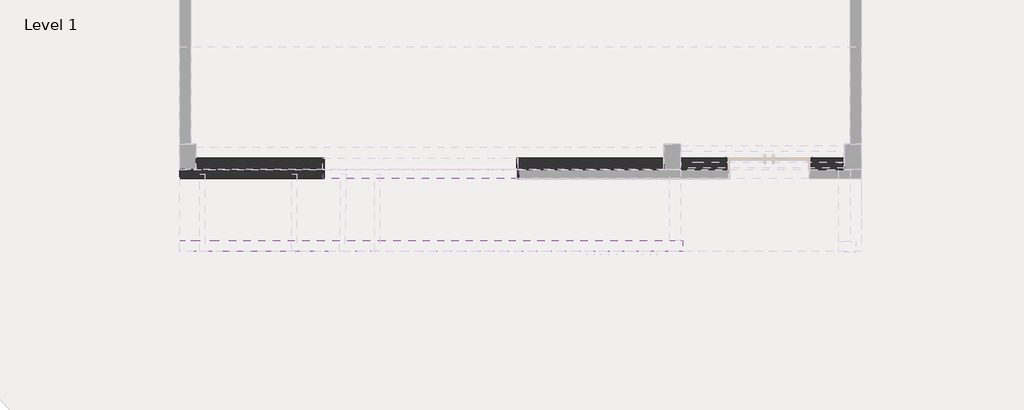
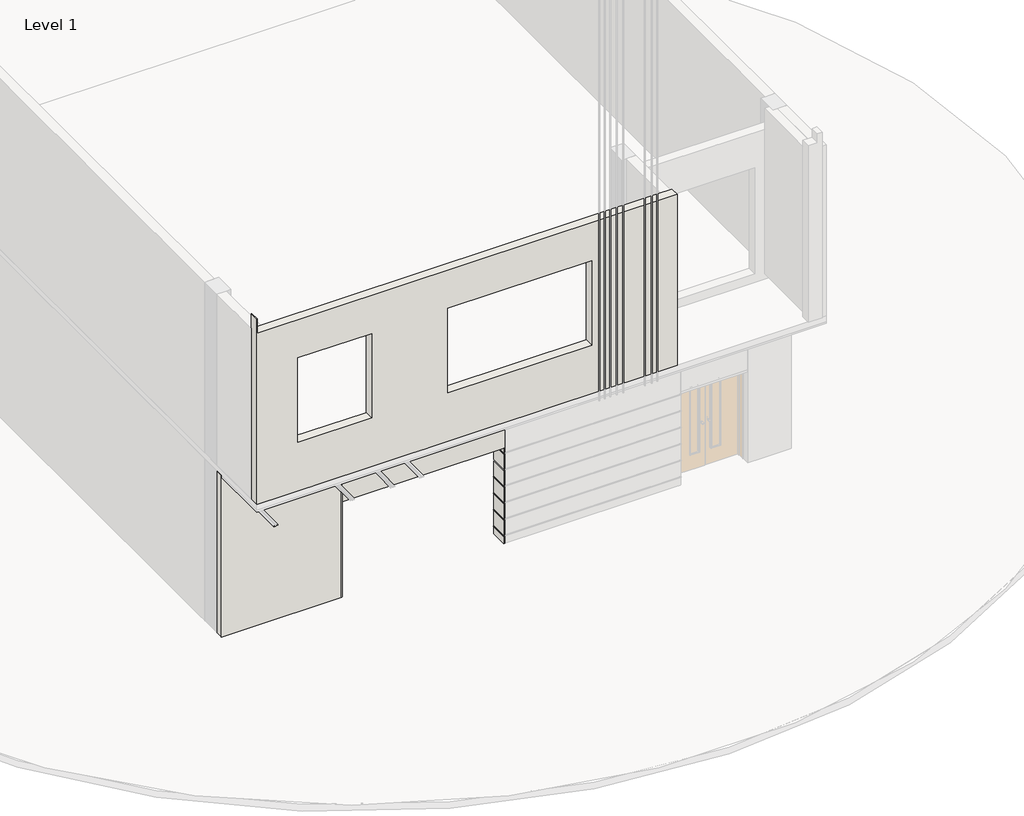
# One storey, part 1 of 3: 6 walls, 5 proxies.
"""IFC4 building model written with IfcOpenShell, lengths in millimetres."""

from ifc_helpers import new_model, si_unit, frame, origin, place, context, project, spatial, polyline, circle_curve, ellipse_curve, faceted_brep, element, save
from ifc_brep_helpers import plane_surface, cylinder_surface, revolved_surface, advanced_brep

model = new_model("IFC4")

# Units and contexts
model_context = context("Model", 3, world=origin())
ifc_project = project(units=[si_unit("LENGTHUNIT", "METRE", prefix="MILLI")], contexts=[model_context])

# Site, building, storey
site = spatial("IfcSite", under=ifc_project)
building = spatial("IfcBuilding", under=site)
storey = spatial("IfcBuildingStorey", under=building, Name="Level 1", Elevation=0.0)

# Proxies
placement = place(None, origin())
element("IfcBuildingElementProxy", 1, Name="Reveal", ObjectType="Reveal", at=placement, inside=storey, context=model_context, shape_type="AdvancedBrep", body=[
    advanced_brep(
    [(1826.4333411, -4025.9647185, 181.0626843), (1842.4333411, -4025.9647185, 181.0626843), (1826.4333411, -4395.9647185, 181.0626843), (1842.4333411, -4379.9647185, 181.0626843)],
    [
        (0, 1, circle_curve(frame((1834.4333411, -4025.9647185, 181.0626843), z_axis=(0.0, 1.0, 0.0), x_axis=(1.0, 0.0, 0.0)), 8.0)),
        (1, 0, circle_curve(frame((1834.4333411, -4025.9647185, 181.0626843), z_axis=(0.0, 1.0, 0.0), x_axis=(1.0, 0.0, 0.0)), 8.0)),
        (2, 3, ellipse_curve(frame((1834.4333411, -4387.9647185, 181.0626843), z_axis=(0.7071067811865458, -0.7071067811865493, 0.0), x_axis=(0.7071067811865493, 0.7071067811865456, 0.0)), 11.3137085, 8.0)),
        (3, 2, ellipse_curve(frame((1834.4333411, -4387.9647185, 181.0626843), z_axis=(0.7071067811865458, -0.7071067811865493, 0.0), x_axis=(0.7071067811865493, 0.7071067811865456, 0.0)), 11.3137085, 8.0)),
        (0, 2),
        (3, 1),
    ],
    [
        plane_surface(frame((1825.4972187, -4025.9647185, 180.0), z_axis=(0.0, 1.0, 0.0), x_axis=(0.0, 0.0, -1.0))),
        plane_surface(frame((1834.4333411, -4387.9647185, -124.8), z_axis=(0.7071067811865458, -0.7071067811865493, 0.0), x_axis=(0.7071067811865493, 0.7071067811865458, 0.0))),
        cylinder_surface(frame((1834.4333411, -4025.9647185, 181.0626843), z_axis=(0.0, 1.0, 0.0), x_axis=(1.0, 0.0, 0.0)), 8.0),
    ],
    [
        (0, [[1, 2]]),
        (1, [[3, 4]]),
        (2, [[-1, 5, -4, 6]]),
        (2, [[-2, -6, -3, -5]]),
    ],
),
])
element("IfcBuildingElementProxy", 2, Name="Reveal", ObjectType="Reveal", at=placement, inside=storey, context=model_context, shape_type="AdvancedBrep", body=[
    advanced_brep(
    [(1826.4333411, -4025.9647185, 2048.5626843), (1842.4333411, -4025.9647185, 2048.5626843), (1826.4333411, -4395.9647185, 2048.5626843), (1842.4333411, -4379.9647185, 2048.5626843)],
    [
        (0, 1, circle_curve(frame((1834.4333411, -4025.9647185, 2048.5626843), z_axis=(0.0, 1.0, 0.0), x_axis=(1.0, 0.0, 0.0)), 8.0)),
        (1, 0, circle_curve(frame((1834.4333411, -4025.9647185, 2048.5626843), z_axis=(0.0, 1.0, 0.0), x_axis=(1.0, 0.0, 0.0)), 8.0)),
        (2, 3, ellipse_curve(frame((1834.4333411, -4387.9647185, 2048.5626843), z_axis=(0.7071067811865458, -0.7071067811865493, 0.0), x_axis=(0.7071067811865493, 0.7071067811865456, 0.0)), 11.3137085, 8.0)),
        (3, 2, ellipse_curve(frame((1834.4333411, -4387.9647185, 2048.5626843), z_axis=(0.7071067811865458, -0.7071067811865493, 0.0), x_axis=(0.7071067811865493, 0.7071067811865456, 0.0)), 11.3137085, 8.0)),
        (0, 2),
        (3, 1),
    ],
    [
        plane_surface(frame((1825.4972187, -4025.9647185, 2047.5), z_axis=(0.0, 1.0, 0.0), x_axis=(0.0, 0.0, -1.0))),
        plane_surface(frame((1834.4333411, -4387.9647185, 1742.7), z_axis=(0.7071067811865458, -0.7071067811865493, 0.0), x_axis=(0.7071067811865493, 0.7071067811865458, 0.0))),
        cylinder_surface(frame((1834.4333411, -4025.9647185, 2048.5626843), z_axis=(0.0, 1.0, 0.0), x_axis=(1.0, 0.0, 0.0)), 8.0),
    ],
    [
        (0, [[1, 2]]),
        (1, [[3, 4]]),
        (2, [[-1, 5, -4, 6]]),
        (2, [[-2, -6, -3, -5]]),
    ],
),
])
element("IfcBuildingElementProxy", 3, Name="Reveal", ObjectType="Reveal", at=placement, inside=storey, context=model_context, shape_type="AdvancedBrep", body=[
    advanced_brep(
    [(1826.4333411, -4025.9647185, 554.5626843), (1842.4333411, -4025.9647185, 554.5626843), (1826.4333411, -4395.9647185, 554.5626843), (1842.4333411, -4379.9647185, 554.5626843)],
    [
        (0, 1, circle_curve(frame((1834.4333411, -4025.9647185, 554.5626843), z_axis=(0.0, 1.0, 0.0), x_axis=(1.0, 0.0, 0.0)), 8.0)),
        (1, 0, circle_curve(frame((1834.4333411, -4025.9647185, 554.5626843), z_axis=(0.0, 1.0, 0.0), x_axis=(1.0, 0.0, 0.0)), 8.0)),
        (2, 3, ellipse_curve(frame((1834.4333411, -4387.9647185, 554.5626843), z_axis=(0.7071067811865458, -0.7071067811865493, 0.0), x_axis=(0.7071067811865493, 0.7071067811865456, 0.0)), 11.3137085, 8.0)),
        (3, 2, ellipse_curve(frame((1834.4333411, -4387.9647185, 554.5626843), z_axis=(0.7071067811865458, -0.7071067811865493, 0.0), x_axis=(0.7071067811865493, 0.7071067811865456, 0.0)), 11.3137085, 8.0)),
        (0, 2),
        (3, 1),
    ],
    [
        plane_surface(frame((1825.4972187, -4025.9647185, 553.5), z_axis=(0.0, 1.0, 0.0), x_axis=(0.0, 0.0, -1.0))),
        plane_surface(frame((1834.4333411, -4387.9647185, 248.7), z_axis=(0.7071067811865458, -0.7071067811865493, 0.0), x_axis=(0.7071067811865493, 0.7071067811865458, 0.0))),
        cylinder_surface(frame((1834.4333411, -4025.9647185, 554.5626843), z_axis=(0.0, 1.0, 0.0), x_axis=(1.0, 0.0, 0.0)), 8.0),
    ],
    [
        (0, [[1, 2]]),
        (1, [[3, 4]]),
        (2, [[-1, 5, -4, 6]]),
        (2, [[-2, -6, -3, -5]]),
    ],
),
])
element("IfcBuildingElementProxy", 4, Name="Reveal", ObjectType="Reveal", at=placement, inside=storey, context=model_context, shape_type="AdvancedBrep", body=[
    advanced_brep(
    [(1826.4333411, -4025.9647185, 928.0626843), (1842.4333411, -4025.9647185, 928.0626843), (1826.4333411, -4395.9647185, 928.0626843), (1842.4333411, -4379.9647185, 928.0626843)],
    [
        (0, 1, circle_curve(frame((1834.4333411, -4025.9647185, 928.0626843), z_axis=(0.0, 1.0, 0.0), x_axis=(1.0, 0.0, 0.0)), 8.0)),
        (1, 0, circle_curve(frame((1834.4333411, -4025.9647185, 928.0626843), z_axis=(0.0, 1.0, 0.0), x_axis=(1.0, 0.0, 0.0)), 8.0)),
        (2, 3, ellipse_curve(frame((1834.4333411, -4387.9647185, 928.0626843), z_axis=(0.7071067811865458, -0.7071067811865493, 0.0), x_axis=(0.7071067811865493, 0.7071067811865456, 0.0)), 11.3137085, 8.0)),
        (3, 2, ellipse_curve(frame((1834.4333411, -4387.9647185, 928.0626843), z_axis=(0.7071067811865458, -0.7071067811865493, 0.0), x_axis=(0.7071067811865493, 0.7071067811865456, 0.0)), 11.3137085, 8.0)),
        (0, 2),
        (3, 1),
    ],
    [
        plane_surface(frame((1825.4972187, -4025.9647185, 927.0), z_axis=(0.0, 1.0, 0.0), x_axis=(0.0, 0.0, -1.0))),
        plane_surface(frame((1834.4333411, -4387.9647185, 622.2), z_axis=(0.7071067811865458, -0.7071067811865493, 0.0), x_axis=(0.7071067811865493, 0.7071067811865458, 0.0))),
        cylinder_surface(frame((1834.4333411, -4025.9647185, 928.0626843), z_axis=(0.0, 1.0, 0.0), x_axis=(1.0, 0.0, 0.0)), 8.0),
    ],
    [
        (0, [[1, 2]]),
        (1, [[3, 4]]),
        (2, [[-1, 5, -4, 6]]),
        (2, [[-2, -6, -3, -5]]),
    ],
),
])
element("IfcBuildingElementProxy", 5, Name="Reveal", ObjectType="Reveal", at=placement, inside=storey, context=model_context, shape_type="AdvancedBrep", body=[
    advanced_brep(
    [(1826.4333411, -4025.9647185, 1301.5626843), (1842.4333411, -4025.9647185, 1301.5626843), (1826.4333411, -4395.9647185, 1301.5626843), (1842.4333411, -4379.9647185, 1301.5626843)],
    [
        (0, 1, circle_curve(frame((1834.4333411, -4025.9647185, 1301.5626843), z_axis=(0.0, 1.0, 0.0), x_axis=(1.0, 0.0, 0.0)), 8.0)),
        (1, 0, circle_curve(frame((1834.4333411, -4025.9647185, 1301.5626843), z_axis=(0.0, 1.0, 0.0), x_axis=(1.0, 0.0, 0.0)), 8.0)),
        (2, 3, ellipse_curve(frame((1834.4333411, -4387.9647185, 1301.5626843), z_axis=(0.7071067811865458, -0.7071067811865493, 0.0), x_axis=(0.7071067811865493, 0.7071067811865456, 0.0)), 11.3137085, 8.0)),
        (3, 2, ellipse_curve(frame((1834.4333411, -4387.9647185, 1301.5626843), z_axis=(0.7071067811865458, -0.7071067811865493, 0.0), x_axis=(0.7071067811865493, 0.7071067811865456, 0.0)), 11.3137085, 8.0)),
        (0, 2),
        (3, 1),
    ],
    [
        plane_surface(frame((1825.4972187, -4025.9647185, 1300.5), z_axis=(0.0, 1.0, 0.0), x_axis=(0.0, 0.0, -1.0))),
        plane_surface(frame((1834.4333411, -4387.9647185, 995.7), z_axis=(0.7071067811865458, -0.7071067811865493, 0.0), x_axis=(0.7071067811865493, 0.7071067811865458, 0.0))),
        cylinder_surface(frame((1834.4333411, -4025.9647185, 1301.5626843), z_axis=(0.0, 1.0, 0.0), x_axis=(1.0, 0.0, 0.0)), 8.0),
    ],
    [
        (0, [[1, 2]]),
        (1, [[3, 4]]),
        (2, [[-1, 5, -4, 6]]),
        (2, [[-2, -6, -3, -5]]),
    ],
),
])

# Walls
element("IfcWall", 6, ObjectType="BZ1_fnsh_EIFS-16cm", at=placement, inside=storey, context=model_context, shape_type="Brep", body=[
    faceted_brep([(-1650.5666589, -4225.9647185, 2483.5103899), (-1650.5666589, -4225.9647185, 0.0), (-4210.5666589, -4225.9647185, 0.0), (-4210.5666589, -4225.9647185, 3670.0), (-1635.5666589, -4225.9647185, 3670.0), (-1635.5666589, -4225.9647185, 3630.0), (-1635.5666589, -4225.9647185, 2483.5103899), (-1650.5666589, -4387.9647185, 0.0), (-1650.5666589, -4387.9647185, 2483.5103899), (-1635.5666589, -4387.9647185, 2483.5103899), (-1635.5666589, -4387.9647185, 3630.0), (-1635.5666589, -4387.9647185, 3670.0), (-4210.5666589, -4387.9647185, 3670.0), (-4210.5666589, -4387.9647185, 0.0)], [[[0, 1, 2, 3, 4, 5, 6]], [[7, 8, 9, 10, 11, 12, 13]], [[0, 8, 7, 1]], [[2, 1, 7, 13]], [[3, 2, 13, 12]], [[4, 3, 12, 11]], [[6, 5, 4, 11, 10, 9]], [[6, 9, 8, 0]]]),
])
element("IfcWall", 7, ObjectType="BZ1_fnsh_EIFS-3CM", at=placement, inside=storey, context=model_context, shape_type="AdvancedBrep", body=[
    advanced_brep(
    [(1834.4333411, -4025.9647185, 0.0), (1834.4333411, -4387.9647185, 0.0), (1834.4333411, -4387.9647185, 173.0626843), (1834.4333411, -4025.9647185, 173.0626843), (1834.4333411, -4387.9647185, 2160.0), (1834.4333411, -4025.9647185, 2160.0), (1834.4333411, -4025.9647185, 2056.5626843), (1834.4333411, -4387.9647185, 2056.5626843), (1834.4333411, -4025.9647185, 189.0626843), (1834.4333411, -4387.9647185, 189.0626843), (1834.4333411, -4387.9647185, 546.5626843), (1834.4333411, -4025.9647185, 546.5626843), (1834.4333411, -4387.9647185, 2040.5626843), (1834.4333411, -4025.9647185, 2040.5626843), (1834.4333411, -4025.9647185, 1683.0626843), (1834.4333411, -4387.9647185, 1683.0626843), (1834.4333411, -4387.9647185, 1667.0626843), (1834.4333411, -4025.9647185, 1667.0626843), (1834.4333411, -4025.9647185, 1309.5626843), (1834.4333411, -4387.9647185, 1309.5626843), (1834.4333411, -4387.9647185, 1293.5626843), (1834.4333411, -4025.9647185, 1293.5626843), (1834.4333411, -4025.9647185, 936.0626843), (1834.4333411, -4387.9647185, 936.0626843), (1834.4333411, -4387.9647185, 920.0626843), (1834.4333411, -4025.9647185, 920.0626843), (1834.4333411, -4025.9647185, 562.5626843), (1834.4333411, -4387.9647185, 562.5626843), (1864.4333411, -4387.9647185, 0.0), (1864.4333411, -4225.9647185, 0.0), (1864.4333411, -4025.9647185, 0.0), (1864.4333411, -4025.9647185, 2160.0), (1864.4333411, -4387.9647185, 2160.0), (1864.4333411, -4387.9647185, 2056.5626843), (1864.4333411, -4379.9647185, 2048.5626843), (1864.4333411, -4387.9647185, 2040.5626843), (1864.4333411, -4387.9647185, 1683.0626843), (1864.4333411, -4379.9647185, 1675.0626843), (1864.4333411, -4387.9647185, 1667.0626843), (1864.4333411, -4387.9647185, 1309.5626843), (1864.4333411, -4379.9647185, 1301.5626843), (1864.4333411, -4387.9647185, 1293.5626843), (1864.4333411, -4387.9647185, 936.0626843), (1864.4333411, -4379.9647185, 928.0626843), (1864.4333411, -4387.9647185, 920.0626843), (1864.4333411, -4387.9647185, 562.5626843), (1864.4333411, -4379.9647185, 554.5626843), (1864.4333411, -4387.9647185, 546.5626843), (1864.4333411, -4387.9647185, 189.0626843), (1864.4333411, -4379.9647185, 181.0626843), (1864.4333411, -4387.9647185, 173.0626843), (1842.4333411, -4025.9647185, 181.0626843), (1842.4333411, -4025.9647185, 554.5626843), (1842.4333411, -4025.9647185, 928.0626843), (1842.4333411, -4025.9647185, 1301.5626843), (1842.4333411, -4025.9647185, 1675.0626843), (1842.4333411, -4025.9647185, 2048.5626843), (1842.4333411, -4379.9647185, 181.0626843), (1842.4333411, -4379.9647185, 2048.5626843), (1842.4333411, -4379.9647185, 1675.0626843), (1842.4333411, -4379.9647185, 1301.5626843), (1842.4333411, -4379.9647185, 928.0626843), (1842.4333411, -4379.9647185, 554.5626843)],
    [
        (0, 1),
        (1, 2),
        (2, 3),
        (3, 0),
        (4, 5),
        (5, 6),
        (6, 7),
        (7, 4),
        (8, 9),
        (9, 10),
        (10, 11),
        (11, 8),
        (12, 13),
        (13, 14),
        (14, 15),
        (15, 12),
        (16, 17),
        (17, 18),
        (18, 19),
        (19, 16),
        (20, 21),
        (21, 22),
        (22, 23),
        (23, 20),
        (24, 25),
        (25, 26),
        (26, 27),
        (27, 24),
        (28, 29),
        (29, 30),
        (30, 31),
        (31, 32),
        (32, 33),
        (33, 34, circle_curve(frame((1864.4333411, -4387.9647185, 2048.5626843), z_axis=(-1.0, 0.0, 0.0), x_axis=(0.0, 1.0, 0.0)), 8.0)),
        (34, 35, circle_curve(frame((1864.4333411, -4387.9647185, 2048.5626843), z_axis=(-1.0, 0.0, 0.0), x_axis=(0.0, 1.0, 0.0)), 8.0)),
        (35, 36),
        (36, 37, circle_curve(frame((1864.4333411, -4387.9647185, 1675.0626843), z_axis=(-1.0, 0.0, 0.0), x_axis=(0.0, 1.0, 0.0)), 8.0)),
        (37, 38, circle_curve(frame((1864.4333411, -4387.9647185, 1675.0626843), z_axis=(-1.0, 0.0, 0.0), x_axis=(0.0, 1.0, 0.0)), 8.0)),
        (38, 39),
        (39, 40, circle_curve(frame((1864.4333411, -4387.9647185, 1301.5626843), z_axis=(-1.0, 0.0, 0.0), x_axis=(0.0, 1.0, 0.0)), 8.0)),
        (40, 41, circle_curve(frame((1864.4333411, -4387.9647185, 1301.5626843), z_axis=(-1.0, 0.0, 0.0), x_axis=(0.0, 1.0, 0.0)), 8.0)),
        (41, 42),
        (42, 43, circle_curve(frame((1864.4333411, -4387.9647185, 928.0626843), z_axis=(-1.0, 0.0, 0.0), x_axis=(0.0, 1.0, 0.0)), 8.0)),
        (43, 44, circle_curve(frame((1864.4333411, -4387.9647185, 928.0626843), z_axis=(-1.0, 0.0, 0.0), x_axis=(0.0, 1.0, 0.0)), 8.0)),
        (44, 45),
        (45, 46, circle_curve(frame((1864.4333411, -4387.9647185, 554.5626843), z_axis=(-1.0, 0.0, 0.0), x_axis=(0.0, 1.0, 0.0)), 8.0)),
        (46, 47, circle_curve(frame((1864.4333411, -4387.9647185, 554.5626843), z_axis=(-1.0, 0.0, 0.0), x_axis=(0.0, 1.0, 0.0)), 8.0)),
        (47, 48),
        (48, 49, circle_curve(frame((1864.4333411, -4387.9647185, 181.0626843), z_axis=(-1.0, 0.0, 0.0), x_axis=(0.0, 1.0, 0.0)), 8.0)),
        (49, 50, circle_curve(frame((1864.4333411, -4387.9647185, 181.0626843), z_axis=(-1.0, 0.0, 0.0), x_axis=(0.0, 1.0, 0.0)), 8.0)),
        (50, 28),
        (0, 30),
        (28, 1),
        (4, 32),
        (31, 5),
        (3, 51, circle_curve(frame((1834.4333411, -4025.9647185, 181.0626843), z_axis=(0.0, -1.0, 0.0), x_axis=(1.0, 0.0, 0.0)), 8.0)),
        (51, 8, circle_curve(frame((1834.4333411, -4025.9647185, 181.0626843), z_axis=(0.0, -1.0, 0.0), x_axis=(1.0, 0.0, 0.0)), 8.0)),
        (11, 52, circle_curve(frame((1834.4333411, -4025.9647185, 554.5626843), z_axis=(0.0, -1.0, 0.0), x_axis=(1.0, 0.0, 0.0)), 8.0)),
        (52, 26, circle_curve(frame((1834.4333411, -4025.9647185, 554.5626843), z_axis=(0.0, -1.0, 0.0), x_axis=(1.0, 0.0, 0.0)), 8.0)),
        (25, 53, circle_curve(frame((1834.4333411, -4025.9647185, 928.0626843), z_axis=(0.0, -1.0, 0.0), x_axis=(1.0, 0.0, 0.0)), 8.0)),
        (53, 22, circle_curve(frame((1834.4333411, -4025.9647185, 928.0626843), z_axis=(0.0, -1.0, 0.0), x_axis=(1.0, 0.0, 0.0)), 8.0)),
        (21, 54, circle_curve(frame((1834.4333411, -4025.9647185, 1301.5626843), z_axis=(0.0, -1.0, 0.0), x_axis=(1.0, 0.0, 0.0)), 8.0)),
        (54, 18, circle_curve(frame((1834.4333411, -4025.9647185, 1301.5626843), z_axis=(0.0, -1.0, 0.0), x_axis=(1.0, 0.0, 0.0)), 8.0)),
        (17, 55, circle_curve(frame((1834.4333411, -4025.9647185, 1675.0626843), z_axis=(0.0, -1.0, 0.0), x_axis=(1.0, 0.0, 0.0)), 8.0)),
        (55, 14, circle_curve(frame((1834.4333411, -4025.9647185, 1675.0626843), z_axis=(0.0, -1.0, 0.0), x_axis=(1.0, 0.0, 0.0)), 8.0)),
        (13, 56, circle_curve(frame((1834.4333411, -4025.9647185, 2048.5626843), z_axis=(0.0, -1.0, 0.0), x_axis=(1.0, 0.0, 0.0)), 8.0)),
        (56, 6, circle_curve(frame((1834.4333411, -4025.9647185, 2048.5626843), z_axis=(0.0, -1.0, 0.0), x_axis=(1.0, 0.0, 0.0)), 8.0)),
        (50, 2),
        (7, 33),
        (9, 48),
        (47, 10),
        (35, 12),
        (15, 36),
        (38, 16),
        (19, 39),
        (41, 20),
        (23, 42),
        (44, 24),
        (27, 45),
        (51, 57),
        (57, 9, ellipse_curve(frame((1834.4333411, -4387.9647185, 181.0626843), z_axis=(0.7071067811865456, -0.7071067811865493, 0.0), x_axis=(0.7071067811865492, 0.7071067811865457, 0.0)), 11.3137085, 8.0)),
        (2, 57, ellipse_curve(frame((1834.4333411, -4387.9647185, 181.0626843), z_axis=(0.7071067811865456, -0.7071067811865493, 0.0), x_axis=(0.7071067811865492, 0.7071067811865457, 0.0)), 11.3137085, 8.0)),
        (57, 49),
        (56, 58),
        (58, 7, ellipse_curve(frame((1834.4333411, -4387.9647185, 2048.5626843), z_axis=(0.7071067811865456, -0.7071067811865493, 0.0), x_axis=(0.7071067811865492, 0.7071067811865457, 0.0)), 11.3137085, 8.0)),
        (12, 58, ellipse_curve(frame((1834.4333411, -4387.9647185, 2048.5626843), z_axis=(0.7071067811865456, -0.7071067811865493, 0.0), x_axis=(0.7071067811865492, 0.7071067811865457, 0.0)), 11.3137085, 8.0)),
        (58, 34),
        (55, 59),
        (59, 15, ellipse_curve(frame((1834.4333411, -4387.9647185, 1675.0626843), z_axis=(0.7071067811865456, -0.7071067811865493, 0.0), x_axis=(0.7071067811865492, 0.7071067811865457, 0.0)), 11.3137085, 8.0)),
        (16, 59, ellipse_curve(frame((1834.4333411, -4387.9647185, 1675.0626843), z_axis=(0.7071067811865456, -0.7071067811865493, 0.0), x_axis=(0.7071067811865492, 0.7071067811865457, 0.0)), 11.3137085, 8.0)),
        (59, 37),
        (54, 60),
        (60, 19, ellipse_curve(frame((1834.4333411, -4387.9647185, 1301.5626843), z_axis=(0.7071067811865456, -0.7071067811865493, 0.0), x_axis=(0.7071067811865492, 0.7071067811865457, 0.0)), 11.3137085, 8.0)),
        (20, 60, ellipse_curve(frame((1834.4333411, -4387.9647185, 1301.5626843), z_axis=(0.7071067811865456, -0.7071067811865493, 0.0), x_axis=(0.7071067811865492, 0.7071067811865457, 0.0)), 11.3137085, 8.0)),
        (60, 40),
        (53, 61),
        (61, 23, ellipse_curve(frame((1834.4333411, -4387.9647185, 928.0626843), z_axis=(0.7071067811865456, -0.7071067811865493, 0.0), x_axis=(0.7071067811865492, 0.7071067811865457, 0.0)), 11.3137085, 8.0)),
        (24, 61, ellipse_curve(frame((1834.4333411, -4387.9647185, 928.0626843), z_axis=(0.7071067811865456, -0.7071067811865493, 0.0), x_axis=(0.7071067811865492, 0.7071067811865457, 0.0)), 11.3137085, 8.0)),
        (61, 43),
        (52, 62),
        (62, 27, ellipse_curve(frame((1834.4333411, -4387.9647185, 554.5626843), z_axis=(0.7071067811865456, -0.7071067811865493, 0.0), x_axis=(0.7071067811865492, 0.7071067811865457, 0.0)), 11.3137085, 8.0)),
        (10, 62, ellipse_curve(frame((1834.4333411, -4387.9647185, 554.5626843), z_axis=(0.7071067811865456, -0.7071067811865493, 0.0), x_axis=(0.7071067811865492, 0.7071067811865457, 0.0)), 11.3137085, 8.0)),
        (62, 46),
    ],
    [
        plane_surface(frame((1834.4333411, -4027.6897651, 0.0), z_axis=(-1.0, 0.0, 0.0), x_axis=(0.0, -1.0, 0.0))),
        plane_surface(frame((1864.4333411, -4027.6897651, 0.0), z_axis=(1.0, 0.0, 0.0), x_axis=(0.0, 1.0, 0.0))),
        plane_surface(frame((1834.4333411, -4025.9647185, 0.0), z_axis=(0.0, 0.0, -1.0), x_axis=(1.0, 0.0, 0.0))),
        plane_surface(frame((1834.4333411, -4306.9647185, 2160.0), z_axis=(0.0, 0.0, 1.0), x_axis=(1.0, 0.0, 0.0))),
        plane_surface(frame((1834.4333411, -4025.9647185, 2160.0), z_axis=(0.0, 1.0, 0.0), x_axis=(1.0, 0.0, 0.0))),
        plane_surface(frame((5549.4333411, -4387.9647185, 0.0), z_axis=(0.0, -1.0, 0.0), x_axis=(1.0, 0.0, 0.0))),
        revolved_surface(polyline([(1842.4333411, -4025.9647185, 181.0626843), (1842.4333411, -4395.964718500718, 181.0626843)]), (1834.4333411, -4025.9647185, 181.0626843), (0.0, 1.0, 0.0)),
        revolved_surface(polyline([(1826.4333410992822, -4379.9647185, 181.0626843), (1864.4333411, -4379.9647185, 181.0626843)]), (1834.4333411, -4387.9647185, 181.0626843), (-1.0, 0.0, 0.0)),
        revolved_surface(polyline([(1842.4333411, -4025.9647185, 2048.5626843), (1842.4333411, -4395.964718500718, 2048.5626843)]), (1834.4333411, -4025.9647185, 2048.5626843), (0.0, 1.0, 0.0)),
        revolved_surface(polyline([(1826.4333410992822, -4379.9647185, 2048.5626843), (1864.4333411, -4379.9647185, 2048.5626843)]), (1834.4333411, -4387.9647185, 2048.5626843), (-1.0, 0.0, 0.0)),
        revolved_surface(polyline([(1842.4333411, -4025.9647185, 1675.0626843), (1842.4333411, -4395.964718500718, 1675.0626843)]), (1834.4333411, -4025.9647185, 1675.0626843), (0.0, 1.0, 0.0)),
        revolved_surface(polyline([(1826.4333410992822, -4379.9647185, 1675.0626843), (1864.4333411, -4379.9647185, 1675.0626843)]), (1834.4333411, -4387.9647185, 1675.0626843), (-1.0, 0.0, 0.0)),
        revolved_surface(polyline([(1842.4333411, -4025.9647185, 1301.5626843), (1842.4333411, -4395.964718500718, 1301.5626843)]), (1834.4333411, -4025.9647185, 1301.5626843), (0.0, 1.0, 0.0)),
        revolved_surface(polyline([(1826.4333410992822, -4379.9647185, 1301.5626843), (1864.4333411, -4379.9647185, 1301.5626843)]), (1834.4333411, -4387.9647185, 1301.5626843), (-1.0, 0.0, 0.0)),
        revolved_surface(polyline([(1842.4333411, -4025.9647185, 928.0626843), (1842.4333411, -4395.964718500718, 928.0626843)]), (1834.4333411, -4025.9647185, 928.0626843), (0.0, 1.0, 0.0)),
        revolved_surface(polyline([(1826.4333410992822, -4379.9647185, 928.0626843), (1864.4333411, -4379.9647185, 928.0626843)]), (1834.4333411, -4387.9647185, 928.0626843), (-1.0, 0.0, 0.0)),
        revolved_surface(polyline([(1842.4333411, -4025.9647185, 554.5626843), (1842.4333411, -4395.964718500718, 554.5626843)]), (1834.4333411, -4025.9647185, 554.5626843), (0.0, 1.0, 0.0)),
        revolved_surface(polyline([(1826.4333410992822, -4379.9647185, 554.5626843), (1864.4333411, -4379.9647185, 554.5626843)]), (1834.4333411, -4387.9647185, 554.5626843), (-1.0, 0.0, 0.0)),
    ],
    [
        (0, [[1, 2, 3, 4]]),
        (0, [[5, 6, 7, 8]]),
        (0, [[9, 10, 11, 12]]),
        (0, [[13, 14, 15, 16]]),
        (0, [[17, 18, 19, 20]]),
        (0, [[21, 22, 23, 24]]),
        (0, [[25, 26, 27, 28]]),
        (1, [[29, 30, 31, 32, 33, 34, 35, 36, 37, 38, 39, 40, 41, 42, 43, 44, 45, 46, 47, 48, 49, 50, 51]]),
        (2, [[-1, 52, -30, -29, 53]]),
        (3, [[-5, 54, -32, 55]]),
        (4, [[-31, -52, -4, 56, 57, -12, 58, 59, -26, 60, 61, -22, 62, 63, -18, 64, 65, -14, 66, 67, -6, -55]]),
        (5, [[-53, -51, 68, -2]]),
        (5, [[-54, -8, 69, -33]]),
        (5, [[70, -48, 71, -10]]),
        (5, [[72, -16, 73, -36]]),
        (5, [[74, -20, 75, -39]]),
        (5, [[76, -24, 77, -42]]),
        (5, [[78, -28, 79, -45]]),
        (6, [[80, 81, -9, -57]]),
        (6, [[-80, -56, -3, 82]]),
        (7, [[-81, 83, -49, -70]]),
        (7, [[-82, -68, -50, -83]]),
        (8, [[84, 85, -7, -67]]),
        (8, [[-84, -66, -13, 86]]),
        (9, [[-85, 87, -34, -69]]),
        (9, [[-86, -72, -35, -87]]),
        (10, [[88, 89, -15, -65]]),
        (10, [[-88, -64, -17, 90]]),
        (11, [[-89, 91, -37, -73]]),
        (11, [[-90, -74, -38, -91]]),
        (12, [[92, 93, -19, -63]]),
        (12, [[-92, -62, -21, 94]]),
        (13, [[-93, 95, -40, -75]]),
        (13, [[-94, -76, -41, -95]]),
        (14, [[96, 97, -23, -61]]),
        (14, [[-96, -60, -25, 98]]),
        (15, [[-97, 99, -43, -77]]),
        (15, [[-98, -78, -44, -99]]),
        (16, [[100, 101, -27, -59]]),
        (16, [[-100, -58, -11, 102]]),
        (17, [[-101, 103, -46, -79]]),
        (17, [[-102, -71, -47, -103]]),
    ],
),
])
element("IfcWall", 8, ObjectType="BZ1_fnsh_EIFS-3CM", at=placement, inside=storey, context=model_context, shape_type="Brep", body=[
    faceted_brep([(-1650.5666589, -4025.9647185, 0.0), (-1650.5666589, -4225.9647185, 0.0), (-1650.5666589, -4387.9647185, 0.0), (-1650.5666589, -4387.9647185, 2483.5103899), (-1650.5666589, -4225.9647185, 2483.5103899), (-1650.5666589, -4025.9647185, 2483.5103899), (-1620.5666589, -4387.9647185, 0.0), (-1620.5666589, -4025.9647185, 0.0), (-1620.5666589, -4025.9647185, 2483.5103899), (-1620.5666589, -4225.9647185, 2483.5103899), (-1620.5666589, -4387.9647185, 2483.5103899), (-1620.5666589, -4387.9647185, 2160.0), (-1635.5666589, -4387.9647185, 2483.5103899)], [[[0, 1, 2, 3, 4, 5]], [[6, 7, 8, 9, 10, 11]], [[2, 1, 0, 7, 6]], [[5, 4, 3, 12, 10, 9, 8]], [[0, 5, 8, 7]], [[3, 2, 6, 11, 10, 12]]]),
])
element("IfcWall", 9, ObjectType="BZ1_fnsh_EIFS-16cm", at=placement, inside=storey, context=model_context, shape_type="Brep", body=[
    faceted_brep([(-1620.5666589, -4225.9647185, 2160.0), (-1620.5666589, -4225.9647185, 2483.5103899), (-1635.5666589, -4225.9647185, 2483.5103899), (-1635.5666589, -4225.9647185, 3630.0), (1864.4333411, -4225.9647185, 3630.0), (1864.4333411, -4225.9647185, 2160.0), (1834.4333411, -4225.9647185, 2160.0), (-1620.5666589, -4387.9647185, 2483.5103899), (-1620.5666589, -4387.9647185, 2160.0), (1864.4333411, -4387.9647185, 2160.0), (1864.4333411, -4387.9647185, 3630.0), (-1635.5666589, -4387.9647185, 3630.0), (-1635.5666589, -4387.9647185, 2483.5103899)], [[[0, 1, 2, 3, 4, 5, 6]], [[7, 8, 9, 10, 11, 12]], [[9, 5, 4, 10]], [[1, 0, 8, 7]], [[4, 3, 11, 10]], [[0, 6, 5, 9, 8]], [[2, 12, 11, 3]], [[12, 2, 1, 7]]]),
])
element("IfcWall", 10, ObjectType="BZ1-Core-Block-20cm", at=placement, inside=storey, context=model_context, shape_type="Brep", body=[
    faceted_brep([(-4210.5666589, -5700.9647185, 8000.0), (-4210.5666589, -5700.9647185, 3800.0), (4795.4333411, -5700.9647185, 3800.0), (4795.4333411, -5700.9647185, 7670.0), (-4200.5666589, -5700.9647185, 7670.0), (-4200.5666589, -5700.9647185, 8000.0), (2964.4333411, -5700.9647185, 4900.0), (-115.5666589, -5700.9647185, 4900.0), (-115.5666589, -5700.9647185, 6810.0), (2964.4333411, -5700.9647185, 6810.0), (-1750.5666589, -5700.9647185, 4900.0), (-3330.5666589, -5700.9647185, 4900.0), (-3330.5666589, -5700.9647185, 6810.0), (-1750.5666589, -5700.9647185, 6810.0), (-4210.5666589, -5500.9647185, 3800.0), (-4210.5666589, -5500.9647185, 7670.0), (-4210.5666589, -5500.9647185, 8000.0), (-4200.5666589, -5500.9647185, 8000.0), (-4200.5666589, -5500.9647185, 7670.0), (-4010.5666589, -5500.9647185, 7670.0), (4559.4333411, -5500.9647185, 7670.0), (4759.4333411, -5500.9647185, 7670.0), (4795.4333411, -5500.9647185, 7670.0), (4795.4333411, -5500.9647185, 3800.0), (4759.4333411, -5500.9647185, 3800.0), (4559.4333411, -5500.9647185, 3800.0), (-4010.5666589, -5500.9647185, 3800.0), (2964.4333411, -5500.9647185, 4900.0), (2964.4333411, -5500.9647185, 6810.0), (-115.5666589, -5500.9647185, 6810.0), (-115.5666589, -5500.9647185, 4900.0), (-1750.5666589, -5500.9647185, 4900.0), (-1750.5666589, -5500.9647185, 6810.0), (-3330.5666589, -5500.9647185, 6810.0), (-3330.5666589, -5500.9647185, 4900.0)], [[[0, 1, 2, 3, 4, 5], [6, 7, 8, 9], [10, 11, 12, 13]], [[14, 15, 16, 17, 18, 19, 20, 21, 22, 23, 24, 25, 26], [27, 28, 29, 30], [31, 32, 33, 34]], [[2, 1, 14, 26, 25, 24, 23]], [[3, 2, 23, 22]], [[28, 27, 6, 9]], [[29, 28, 9, 8]], [[30, 29, 8, 7]], [[27, 30, 7, 6]], [[32, 31, 10, 13]], [[33, 32, 13, 12]], [[34, 33, 12, 11]], [[31, 34, 11, 10]], [[0, 5, 17, 16]], [[17, 5, 4, 18]], [[4, 3, 22, 21, 20, 19, 18]], [[0, 16, 15, 14, 1]]]),
])
element("IfcWall", 11, ObjectType="BZ1-Core-Block-20cm", at=placement, inside=storey, context=model_context, shape_type="Brep", body=[
    faceted_brep([(4759.4333411, -4225.9647185, 3670.0), (4759.4333411, -4225.9647185, 0.0), (5584.4333411, -4225.9647185, 0.0), (5584.4333411, -4225.9647185, 2110.0), (7094.4333411, -4225.9647185, 2110.0), (7094.4333411, -4225.9647185, 0.0), (7689.4333411, -4225.9647185, 0.0), (7689.4333411, -4225.9647185, 3670.0), (7094.4333411, -4025.9647185, 0.0), (7094.4333411, -4025.9647185, 2110.0), (5584.4333411, -4025.9647185, 2110.0), (5584.4333411, -4025.9647185, 0.0), (4759.4333411, -4025.9647185, 0.0), (4759.4333411, -4025.9647185, 3200.0), (7689.4333411, -4025.9647185, 3200.0), (7689.4333411, -4025.9647185, 0.0), (7689.4333411, -4200.9647185, 3670.0), (4759.4333411, -4200.9647185, 3670.0), (4759.4333411, -4200.9647185, 3200.0), (7689.4333411, -4200.9647185, 3200.0)], [[[0, 1, 2, 3, 4, 5, 6, 7]], [[8, 9, 10, 11, 12, 13, 14, 15]], [[1, 12, 11, 2]], [[15, 6, 5, 8]], [[0, 7, 16, 17]], [[1, 0, 17, 18, 13, 12]], [[7, 6, 15, 14, 19, 16]], [[5, 4, 9, 8]], [[4, 3, 10, 9]], [[3, 2, 11, 10]], [[19, 18, 17, 16]], [[18, 19, 14, 13]]]),
    faceted_brep([(1849.4333411, -4225.9647185, 2200.0), (1849.4333411, -4225.9647185, 0.0), (4459.4333411, -4225.9647185, 0.0), (4459.4333411, -4225.9647185, 3200.0), (-3910.5666589, -4225.9647185, 3200.0), (-3910.5666589, -4225.9647185, 0.0), (-1650.5666589, -4225.9647185, 0.0), (-1650.5666589, -4225.9647185, 2200.0), (4459.4333411, -4025.9647185, 3200.0), (4459.4333411, -4025.9647185, 0.0), (1849.4333411, -4025.9647185, 0.0), (1849.4333411, -4025.9647185, 2200.0), (-1650.5666589, -4025.9647185, 2200.0), (-1650.5666589, -4025.9647185, 0.0), (-3910.5666589, -4025.9647185, 0.0), (-3910.5666589, -4025.9647185, 3200.0)], [[[0, 1, 2, 3, 4, 5, 6, 7]], [[8, 9, 10, 11, 12, 13, 14, 15]], [[9, 2, 1, 10]], [[5, 14, 13, 6]], [[2, 9, 8, 3]], [[14, 5, 4, 15]], [[8, 15, 4, 3]], [[0, 11, 10, 1]], [[12, 7, 6, 13]], [[11, 0, 7, 12]]]),
])

save(model, "model.ifc")
